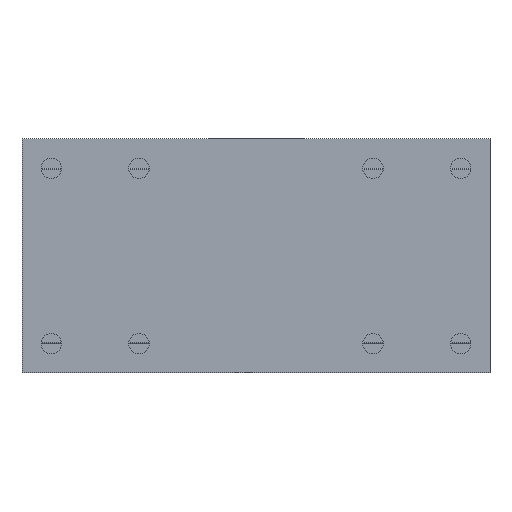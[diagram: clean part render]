
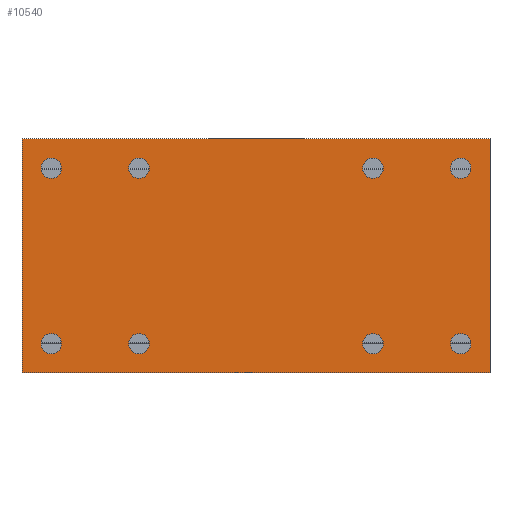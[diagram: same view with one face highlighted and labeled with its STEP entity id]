
A CAD part, front view. The second image highlights one B-rep face of the part: STEP entity #10540.
In plain terms, the highlighted planar face has unit normal (0, -1, 0).
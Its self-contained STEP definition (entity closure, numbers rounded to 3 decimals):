
#366=CIRCLE('',#11168,1.75);
#367=CIRCLE('',#11169,1.75);
#368=CIRCLE('',#11170,1.75);
#369=CIRCLE('',#11171,1.75);
#370=CIRCLE('',#11172,1.75);
#371=CIRCLE('',#11173,1.75);
#372=CIRCLE('',#11174,1.75);
#373=CIRCLE('',#11175,1.75);
#1098=ORIENTED_EDGE('',*,*,#4307,.F.);
#1099=ORIENTED_EDGE('',*,*,#4308,.F.);
#1100=ORIENTED_EDGE('',*,*,#4309,.F.);
#1101=ORIENTED_EDGE('',*,*,#4310,.F.);
#1102=ORIENTED_EDGE('',*,*,#4311,.T.);
#1103=ORIENTED_EDGE('',*,*,#4312,.F.);
#1104=ORIENTED_EDGE('',*,*,#4313,.F.);
#1105=ORIENTED_EDGE('',*,*,#4314,.F.);
#1106=ORIENTED_EDGE('',*,*,#4258,.T.);
#1107=ORIENTED_EDGE('',*,*,#4315,.F.);
#1108=ORIENTED_EDGE('',*,*,#4316,.F.);
#1109=ORIENTED_EDGE('',*,*,#4305,.T.);
#4258=EDGE_CURVE('',#5869,#5868,#6960,.T.);
#4305=EDGE_CURVE('',#5906,#5869,#7003,.T.);
#4307=EDGE_CURVE('',#5907,#5907,#366,.T.);
#4308=EDGE_CURVE('',#5908,#5908,#367,.T.);
#4309=EDGE_CURVE('',#5909,#5909,#368,.T.);
#4310=EDGE_CURVE('',#5910,#5910,#369,.T.);
#4311=EDGE_CURVE('',#5911,#5911,#370,.T.);
#4312=EDGE_CURVE('',#5912,#5912,#371,.T.);
#4313=EDGE_CURVE('',#5913,#5913,#372,.T.);
#4314=EDGE_CURVE('',#5914,#5914,#373,.T.);
#4315=EDGE_CURVE('',#5915,#5868,#7005,.T.);
#4316=EDGE_CURVE('',#5906,#5915,#7006,.T.);
#5868=VERTEX_POINT('',#15918);
#5869=VERTEX_POINT('',#15920);
#5906=VERTEX_POINT('',#16011);
#5907=VERTEX_POINT('',#16015);
#5908=VERTEX_POINT('',#16017);
#5909=VERTEX_POINT('',#16019);
#5910=VERTEX_POINT('',#16021);
#5911=VERTEX_POINT('',#16023);
#5912=VERTEX_POINT('',#16025);
#5913=VERTEX_POINT('',#16027);
#5914=VERTEX_POINT('',#16029);
#5915=VERTEX_POINT('',#16031);
#6960=LINE('',#15919,#7922);
#7003=LINE('',#16010,#7965);
#7005=LINE('',#16030,#7967);
#7006=LINE('',#16032,#7968);
#7922=VECTOR('',#12437,1000.);
#7965=VECTOR('',#12502,1000.);
#7967=VECTOR('',#12522,1000.);
#7968=VECTOR('',#12523,1000.);
#8871=EDGE_LOOP('',(#1098));
#8872=EDGE_LOOP('',(#1099));
#8873=EDGE_LOOP('',(#1100));
#8874=EDGE_LOOP('',(#1101));
#8875=EDGE_LOOP('',(#1102));
#8876=EDGE_LOOP('',(#1103));
#8877=EDGE_LOOP('',(#1104));
#8878=EDGE_LOOP('',(#1105));
#8879=EDGE_LOOP('',(#1106,#1107,#1108,#1109));
#9575=FACE_BOUND('',#8871,.T.);
#9576=FACE_BOUND('',#8872,.T.);
#9577=FACE_BOUND('',#8873,.T.);
#9578=FACE_BOUND('',#8874,.T.);
#9579=FACE_BOUND('',#8875,.T.);
#9580=FACE_BOUND('',#8876,.T.);
#9581=FACE_BOUND('',#8877,.T.);
#9582=FACE_BOUND('',#8878,.T.);
#9583=FACE_BOUND('',#8879,.T.);
#10275=PLANE('',#11167);
#10540=ADVANCED_FACE('',(#9575,#9576,#9577,#9578,#9579,#9580,#9581,#9582,
#9583),#10275,.F.);
#11167=AXIS2_PLACEMENT_3D('',#16013,#12504,#12505);
#11168=AXIS2_PLACEMENT_3D('',#16014,#12506,#12507);
#11169=AXIS2_PLACEMENT_3D('',#16016,#12508,#12509);
#11170=AXIS2_PLACEMENT_3D('',#16018,#12510,#12511);
#11171=AXIS2_PLACEMENT_3D('',#16020,#12512,#12513);
#11172=AXIS2_PLACEMENT_3D('',#16022,#12514,#12515);
#11173=AXIS2_PLACEMENT_3D('',#16024,#12516,#12517);
#11174=AXIS2_PLACEMENT_3D('',#16026,#12518,#12519);
#11175=AXIS2_PLACEMENT_3D('',#16028,#12520,#12521);
#12437=DIRECTION('',(0.,0.,-1.));
#12502=DIRECTION('',(-1.,0.,0.));
#12504=DIRECTION('',(0.,1.,0.));
#12505=DIRECTION('',(0.,0.,1.));
#12506=DIRECTION('',(0.,-1.,0.));
#12507=DIRECTION('',(0.,0.,-1.));
#12508=DIRECTION('',(0.,-1.,0.));
#12509=DIRECTION('',(0.,0.,-1.));
#12510=DIRECTION('',(0.,-1.,0.));
#12511=DIRECTION('',(0.,0.,-1.));
#12512=DIRECTION('',(0.,-1.,0.));
#12513=DIRECTION('',(0.,0.,-1.));
#12514=DIRECTION('',(0.,1.,0.));
#12515=DIRECTION('',(0.,0.,1.));
#12516=DIRECTION('',(0.,-1.,0.));
#12517=DIRECTION('',(0.,0.,-1.));
#12518=DIRECTION('',(0.,-1.,0.));
#12519=DIRECTION('',(0.,0.,-1.));
#12520=DIRECTION('',(0.,-1.,0.));
#12521=DIRECTION('',(0.,0.,-1.));
#12522=DIRECTION('',(-1.,0.,0.));
#12523=DIRECTION('',(0.,0.,-1.));
#15918=CARTESIAN_POINT('',(0.,0.,-20.));
#15919=CARTESIAN_POINT('',(0.,0.,20.));
#15920=CARTESIAN_POINT('',(0.,0.,20.));
#16010=CARTESIAN_POINT('',(80.,0.,20.));
#16011=CARTESIAN_POINT('',(80.,0.,20.));
#16013=CARTESIAN_POINT('',(80.,0.,20.));
#16014=CARTESIAN_POINT('',(60.,0.,15.));
#16015=CARTESIAN_POINT('',(60.,0.,13.25));
#16016=CARTESIAN_POINT('',(60.,0.,-15.));
#16017=CARTESIAN_POINT('',(60.,0.,-16.75));
#16018=CARTESIAN_POINT('',(20.,0.,15.));
#16019=CARTESIAN_POINT('',(20.,0.,13.25));
#16020=CARTESIAN_POINT('',(20.,0.,-15.));
#16021=CARTESIAN_POINT('',(20.,0.,-16.75));
#16022=CARTESIAN_POINT('',(75.,0.,15.));
#16023=CARTESIAN_POINT('',(75.,0.,16.75));
#16024=CARTESIAN_POINT('',(75.,0.,-15.));
#16025=CARTESIAN_POINT('',(75.,0.,-16.75));
#16026=CARTESIAN_POINT('',(5.,0.,-15.));
#16027=CARTESIAN_POINT('',(5.,0.,-16.75));
#16028=CARTESIAN_POINT('',(5.,0.,15.));
#16029=CARTESIAN_POINT('',(5.,0.,13.25));
#16030=CARTESIAN_POINT('',(80.,0.,-20.));
#16031=CARTESIAN_POINT('',(80.,0.,-20.));
#16032=CARTESIAN_POINT('',(80.,0.,20.));
